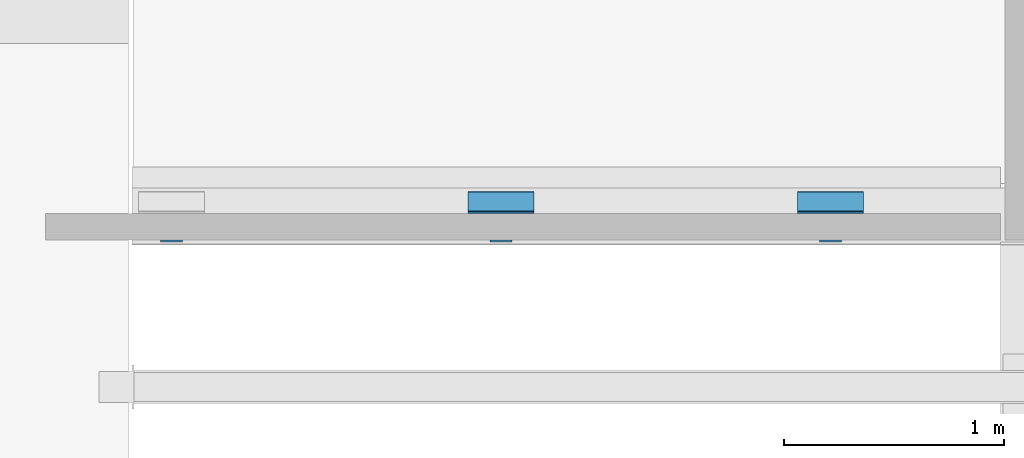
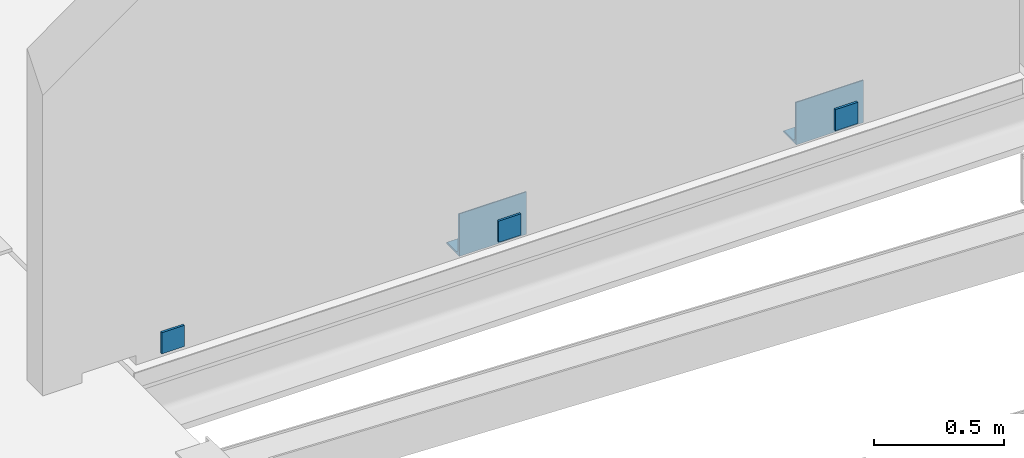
# One storey, part 15 of 27: 5 beams.
"""IFC2X3 building model written with IfcOpenShell, lengths in millimetres."""

from ifc_helpers import new_model, entity, si_unit, converted_unit, derived_unit, direction, frame, frame_2d, origin, origin_2d_with_axis, place, context, subcontext, project, spatial, polyline, circle_curve, parameter, trimmed, segment, composite_curve, rectangle, outline, extrude, source, transform, mapped, material, type_object, type_shapes, element, save


model = new_model("IFC2X3")

# Units and contexts
model_context = context("Model", 3, precision=0.01, world=origin(), true_north=direction((6.12303176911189e-17, 1.0)))
body_context = subcontext(model_context, "Body", "Model", "MODEL_VIEW")
ifc_project = project(units=[si_unit("LENGTHUNIT", "METRE", prefix="MILLI"), si_unit("AREAUNIT", "SQUARE_METRE"), si_unit("VOLUMEUNIT", "CUBIC_METRE"), converted_unit("PLANEANGLEUNIT", "DEGREE", entity("IfcRatioMeasure", 0.0174532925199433), si_unit("PLANEANGLEUNIT", "RADIAN"), dimensions=[0, 0, 0, 0, 0, 0, 0]), si_unit("MASSUNIT", "GRAM", prefix="KILO"), derived_unit("MASSDENSITYUNIT", [(si_unit("MASSUNIT", "GRAM", prefix="KILO"), 1), (si_unit("LENGTHUNIT", "METRE"), -3)]), si_unit("TIMEUNIT", "SECOND"), si_unit("FREQUENCYUNIT", "HERTZ"), si_unit("THERMODYNAMICTEMPERATUREUNIT", "DEGREE_CELSIUS"), derived_unit("THERMALTRANSMITTANCEUNIT", [(si_unit("MASSUNIT", "GRAM", prefix="KILO"), 1), (si_unit("THERMODYNAMICTEMPERATUREUNIT", "KELVIN"), -1), (si_unit("TIMEUNIT", "SECOND"), -3)]), derived_unit("VOLUMETRICFLOWRATEUNIT", [(si_unit("LENGTHUNIT", "METRE"), 3), (si_unit("TIMEUNIT", "SECOND"), -1)]), si_unit("ELECTRICCURRENTUNIT", "AMPERE"), si_unit("ELECTRICVOLTAGEUNIT", "VOLT"), si_unit("POWERUNIT", "WATT"), si_unit("FORCEUNIT", "NEWTON", prefix="KILO"), si_unit("ILLUMINANCEUNIT", "LUX"), si_unit("LUMINOUSFLUXUNIT", "LUMEN"), si_unit("LUMINOUSINTENSITYUNIT", "CANDELA"), derived_unit("USERDEFINED", [(si_unit("MASSUNIT", "GRAM", prefix="KILO"), -1), (si_unit("LENGTHUNIT", "METRE"), -2), (si_unit("TIMEUNIT", "SECOND"), 3), (si_unit("LUMINOUSFLUXUNIT", "LUMEN"), 1)]), derived_unit("LINEARVELOCITYUNIT", [(si_unit("LENGTHUNIT", "METRE"), 1), (si_unit("TIMEUNIT", "SECOND"), -1)]), si_unit("PRESSUREUNIT", "PASCAL"), derived_unit("USERDEFINED", [(si_unit("LENGTHUNIT", "METRE"), -2), (si_unit("MASSUNIT", "GRAM", prefix="KILO"), 1), (si_unit("TIMEUNIT", "SECOND"), -2)])], contexts=[model_context])

# Site, building, storey
site_placement = place(None, origin())
site = spatial("IfcSite", under=ifc_project, at=site_placement, Name="Default", CompositionType="ELEMENT")
building_placement = place(site_placement, origin())
building = spatial("IfcBuilding", under=site, at=building_placement, Name="niet gebruiken", CompositionType="ELEMENT")
storey_placement = place(building_placement, frame((0.0, 0.0, 6000.0)))
storey = spatial("IfcBuildingStorey", under=building, at=storey_placement, Name="01 eerste verdieping", CompositionType="ELEMENT", Elevation=6000.0)

# Beams
ifc_material = material(Name="NLRS_h2_staal")
beam_type_1 = type_object("IfcBeamType", Name="ligger stripstaal RECT_100x10 gedraaid", PredefinedType="BEAM", material=ifc_material)
shared_shape = source(origin(), body_context, "Body", "SweptSolid", [
    extrude(rectangle(XDim=100.0, YDim=9.99999999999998, at=origin_2d_with_axis()), frame((0.0, 0.0, -50.0), z_axis=(0.0, 0.0, 1.0), x_axis=(-1.0, 0.0, 0.0)), (0.0, 0.0, 1.0), 100.0),
    extrude(rectangle(XDim=100.0, YDim=9.99999999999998, at=origin_2d_with_axis()), frame((0.0, 0.0, -50.0), z_axis=(0.0, 0.0, 1.0), x_axis=(-1.0, 0.0, 0.0)), (0.0, 0.0, 1.0), 100.0),
])
type_shapes(beam_type_1, [shared_shape])
for number, where, z_axis, x_axis, name in (
    (1, (160895.0, 33765.0, 0.0), (0.0, 0.0, 1.0), (-1.0, 0.0, 0.0), "NLRS_28.11_SF_WPB_stalen ligger stripstaal_gen:ligger stripstaal RECT_100x10 gedraaid"),
    (2, (159395.0, 33765.0, 0.0), (0.0, 0.0, 1.0), (-1.0, 0.0, 0.0), "NLRS_28.11_SF_WPB_stalen ligger stripstaal_gen:ligger stripstaal RECT_100x10 gedraaid"),
    (3, (162395.0, 33765.0, 0.0), (0.0, 0.0, 1.0), (-1.0, 0.0, 0.0), "NLRS_28.11_SF_WPB_stalen ligger stripstaal_gen:ligger stripstaal RECT_100x10 gedraaid"),
):
    element("IfcBeam", number, at=place(storey_placement, frame(where, z_axis=z_axis, x_axis=x_axis)), inside=storey, type_object=beam_type_1, material=ifc_material, Name=name, ObjectType="ligger stripstaal RECT_100x10 gedraaid", context=body_context, shape_type="MappedRepresentation", body=[
        mapped(shared_shape, transform((0.0, 0.0, 0.0), scale=1.0)),
    ])
beam_type_2 = type_object("IfcBeamType", Name="NLRS_28.11_SF_WPB_stalen ligger hoekprofiel ongelijkzijdig_gen:ligger ongelijzijdig hoekprofiel LUEQ_200x100x10", PredefinedType="BEAM")
for number, where, name in (
    (4, (160745.0, 33910.13, 40.0), "NLRS_28.11_SF_WPB_stalen ligger hoekprofiel ongelijkzijdig_gen:ligger ongelijzijdig hoekprofiel LUEQ_200x100x10"),
    (5, (162245.0, 33910.13, 40.0), "NLRS_28.11_SF_WPB_stalen ligger hoekprofiel ongelijkzijdig_gen:ligger ongelijzijdig hoekprofiel LUEQ_200x100x10"),
):
    element("IfcBeam", number, at=place(storey_placement, frame(where)), inside=storey, type_object=beam_type_2, material=ifc_material, Name=name, ObjectType="NLRS_28.11_SF_WPB_stalen ligger hoekprofiel ongelijkzijdig_gen:ligger ongelijzijdig hoekprofiel LUEQ_200x100x10", context=body_context, shape_type="SweptSolid", body=[
        extrude(outline(composite_curve([segment(polyline([(-128.88888888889, -37.7777777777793), (71.1111111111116, -37.7777777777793)]), True, "CONTINUOUS"), segment(polyline([(71.1111111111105, -37.7777777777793), (71.1111111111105, 62.222222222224)]), True, "CONTINUOUS"), segment(polyline([(71.1111111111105, 62.2222222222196), (68.61111111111, 62.2222222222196)]), True, "CONTINUOUS"), segment(trimmed(circle_curve(frame_2d((68.6111111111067, 54.7222222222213), x_axis=(0.0, 1.0)), 7.49999999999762), [parameter(0.0)], [parameter(90.0000000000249)], True, "PARAMETER"), True, "CONTINUOUS"), segment(polyline([(61.1111111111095, 54.7222222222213), (61.1111111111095, -12.7777777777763)]), True, "CONTINUOUS"), segment(trimmed(circle_curve(frame_2d((46.1111111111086, -12.7777777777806), x_axis=(1.0, 0.0)), 15.0000000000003), [parameter(270.000000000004)], [parameter(0.0)], True, "PARAMETER"), False, "CONTINUOUS"), segment(polyline([(46.1111111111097, -27.7777777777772), (-121.38888888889, -27.7777777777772)]), True, "CONTINUOUS"), segment(trimmed(circle_curve(frame_2d((-121.388888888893, -35.2777777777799), x_axis=(0.0, 1.0)), 7.49999999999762), [parameter(0.0)], [parameter(90.0000000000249)], True, "PARAMETER"), True, "CONTINUOUS"), segment(polyline([(-128.88888888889, -35.2777777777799), (-128.88888888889, -37.7777777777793)]), True, "CONTINUOUS")], self_intersect=False)), frame((0.0, 17.6477777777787, -128.888888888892), z_axis=(1.0, 0.0, 0.0), x_axis=(0.0, 0.0, -1.0)), (0.0, 0.0, 1.0), 300.000000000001),
    ])

save(model, "model.ifc")
